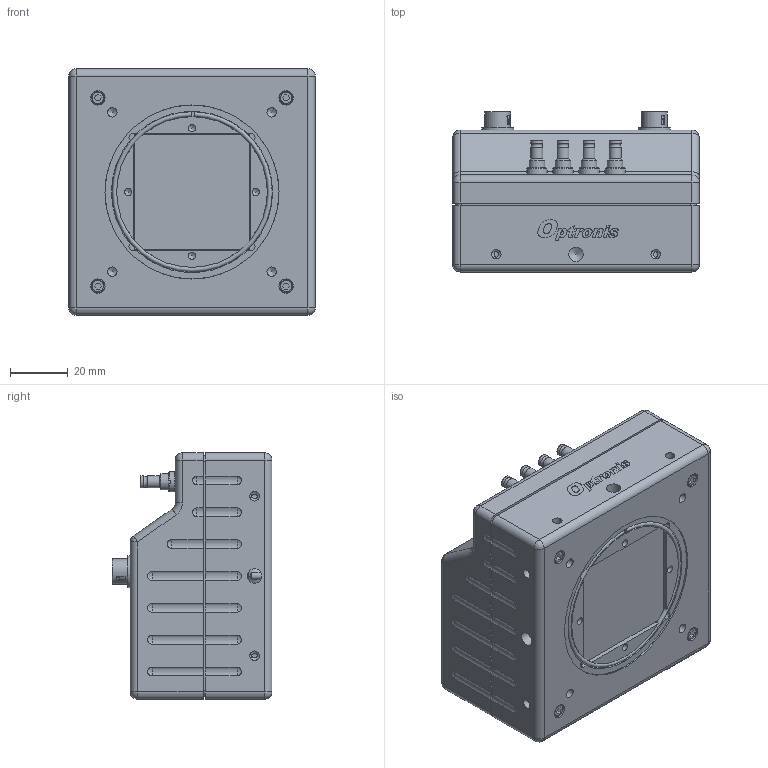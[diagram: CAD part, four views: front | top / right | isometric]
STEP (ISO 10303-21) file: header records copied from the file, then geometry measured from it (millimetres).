
FILE_DESCRIPTION(/* description */ ('CP70'),/* implementation_level */ '2;1');
FILE_NAME(/* name */ 'C:\Optronis\Inv\Modelle 3D\1870-3D\CP70.stp',/* time_stamp */ '2018-04-18T14:03:05+02:00',/* author */ ('A. Nuber'),/* organization */ ('Optronis GmbH'),/* preprocessor_version */ 'ST-DEVELOPER v17',/* originating_system */ 'Autodesk Inventor 2018',/* authorisation */ '');
FILE_SCHEMA (('CONFIG_CONTROL_DESIGN'));
Length unit declared in the file: millimetre
Products named in the file (1): CP70
Bounding box: 85 x 55.2 x 85.02 mm (x, y, z)
Surface area: 46608.6 mm2 (no closed solid volume)
Topology: 0 solids, 30 shells, 738 faces, 2697 edges, 1957 vertices
Faces by surface type: plane 347, cylinder 171, bspline 115, cone 56, sphere 38, torus 11
Full cylindrical faces by diameter (mm): 0.8 x4, 2.013 x6, 2.459 x4, 3.242 x12, 4.1 x8, 4.5 x4, 4.978 x4, 5 x4, 5.4 x4, 5.6 x2, 5.7 x2, 7 x4, 8.85 x2, 11 x2, 60 x1, 60.1 x1
Entity records: 31813 total; most frequent: CARTESIAN_POINT 8852, ORIENTED_EDGE 4496, DIRECTION 4188, EDGE_CURVE 2671, VERTEX_POINT 1957, LINE 1550, VECTOR 1550, AXIS2_PLACEMENT_3D 1319
